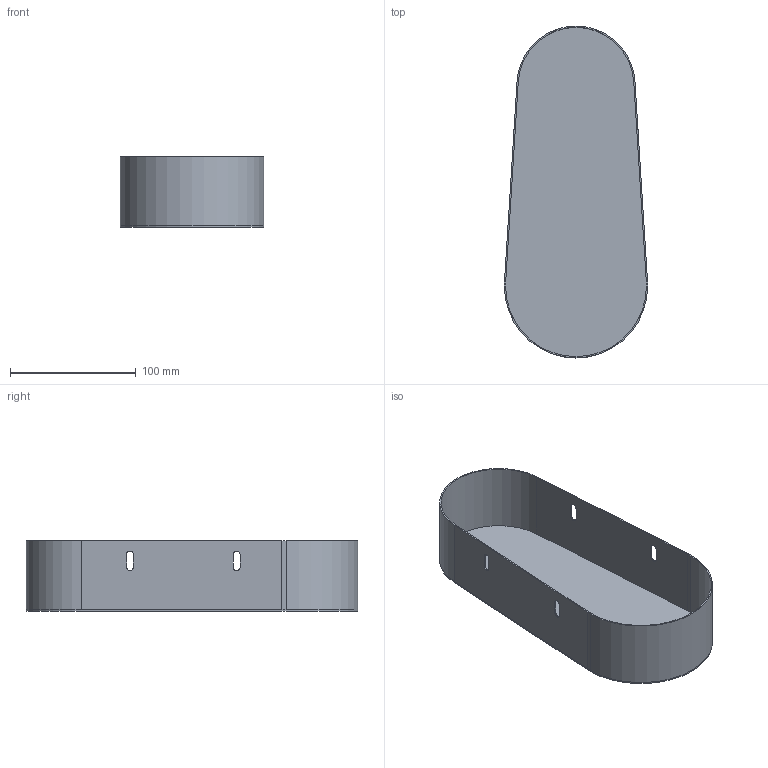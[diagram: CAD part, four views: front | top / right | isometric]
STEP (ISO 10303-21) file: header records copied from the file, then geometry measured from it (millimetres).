
FILE_DESCRIPTION (( 'STEP AP203' ), '1' );
FILE_NAME ('084.821.005.STEP', '2013-01-29T13:16:37', ( 'Alusic' ), ( 'Alusic' ), 'SwSTEP 2.0', 'SolidWorks 2011', '' );
FILE_SCHEMA (( 'CONFIG_CONTROL_DESIGN' ));
Length unit declared in the file: millimetre
Products named in the file (1): 084.821.005
Bounding box: 114 x 264 x 56 mm (x, y, z)
Volume: 60362.4 mm3; surface area: 122809.7 mm2
Topology: 2 solids, 2 shells, 38 faces, 102 edges, 68 vertices
Faces by surface type: cylinder 20, plane 18
Entity records: 1301 total; most frequent: DIRECTION 220, CARTESIAN_POINT 209, ORIENTED_EDGE 204, EDGE_CURVE 102, AXIS2_PLACEMENT_3D 79, VERTEX_POINT 68, LINE 62, VECTOR 62
